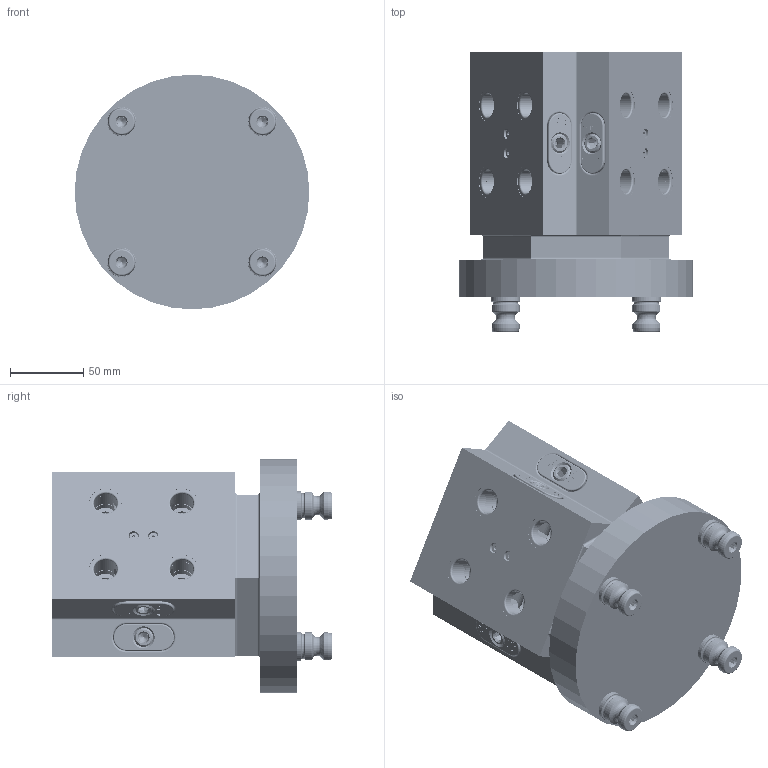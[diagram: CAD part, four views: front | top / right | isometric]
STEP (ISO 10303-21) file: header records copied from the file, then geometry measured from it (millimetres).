
FILE_DESCRIPTION (( 'STEP AP214' ), '1' );
FILE_NAME ('RL52A-T31.STEP', '2019-03-25T09:49:40', ( '' ), ( '' ), 'SwSTEP 2.0', 'SolidWorks 2018', '' );
FILE_SCHEMA (( 'AUTOMOTIVE_DESIGN' ));
Length unit declared in the file: inch
Products named in the file (10): RL52A-T31; RL52-3; PS20F; SB43_SB43; RL52-2R; RL52-2L; RL52-1T31A_RL52-1T31A; 39874.CPSS_91390A162; 22X16.DB; PS20F-1_HARD TURN
Assembly tree (34 placements, depth 3):
  RL52A-T31
    RL52-1T31A_RL52-1T31A
    RL52-2L  x3
    RL52-2R  x3
    RL52-3  x3
    22X16.DB  x12
    SB43_SB43  x6
    PS20F  x4
      PS20F-1_HARD TURN
      39874.CPSS_91390A162
Bounding box: 160 x 191 x 160 mm (x, y, z)
Volume: 2135477.9 mm3; surface area: 225073.6 mm2
Topology: 36 solids, 36 shells, 5291 faces, 12559 edges, 7492 vertices
Faces by surface type: plane 3045, cylinder 1399, cone 368, bspline 261, torus 218
Entity records: 60186 total; most frequent: CARTESIAN_POINT 18986, DIRECTION 7337, ORIENTED_EDGE 7332, EDGE_CURVE 3666, AXIS2_PLACEMENT_3D 2657, VERTEX_POINT 2263, LINE 2023, VECTOR 2023
